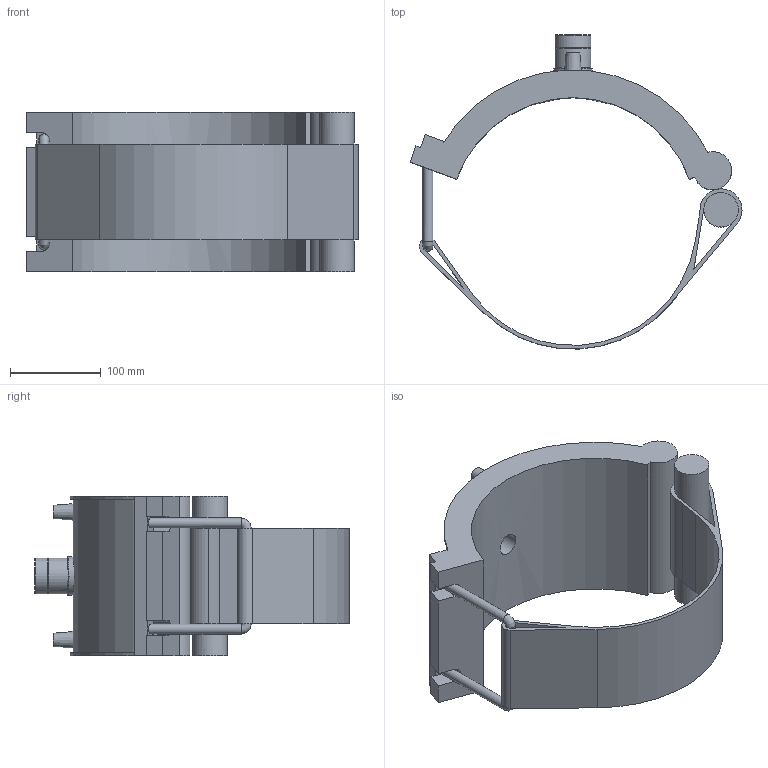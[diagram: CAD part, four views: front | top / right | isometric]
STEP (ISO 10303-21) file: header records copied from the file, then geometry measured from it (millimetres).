
FILE_DESCRIPTION(/* description */ ('PLASSON TRANSITION SADDLE 10''''IPS x 1"NPT'),/* implementation_level */ '2;1');
FILE_NAME(/* name */ 'C:\Dropbox\KIMPROJECTS-Inventor 2019\99-16-3568-Processing Inch\ASTM ElectroFusion 2021\5938B\5938B00310060.ipt.stp',/* time_stamp */ '2021-08-30T09:51:37+03:00',/* author */ ('KIM'),/* organization */ (''),/* preprocessor_version */ 'ST-DEVELOPER v17.2',/* originating_system */ 'Autodesk Inventor 2019',/* authorisation */ '');
FILE_SCHEMA (('AUTOMOTIVE_DESIGN { 1 0 10303 214 3 1 1 }'));
Length unit declared in the file: inch
Products named in the file (1): 5938B00310060
Bounding box: 365.45 x 345.77 x 176.02 mm (x, y, z)
Volume: 2642657 mm3; surface area: 369884.2 mm2
Topology: 1 solids, 1 shells, 78 faces, 196 edges, 128 vertices
Faces by surface type: plane 42, cylinder 28, cone 5, torus 2, bspline 1
Full cylindrical faces by diameter (mm): 4 x2, 10 x2, 10.908 x2, 24.233 x1, 30.291 x1, 37.968 x1, 38.378 x1, 39.378 x2, 42.407 x1
Entity records: 2753 total; most frequent: CARTESIAN_POINT 762, DIRECTION 414, ORIENTED_EDGE 394, EDGE_CURVE 197, AXIS2_PLACEMENT_3D 150, VERTEX_POINT 128, LINE 114, VECTOR 114
